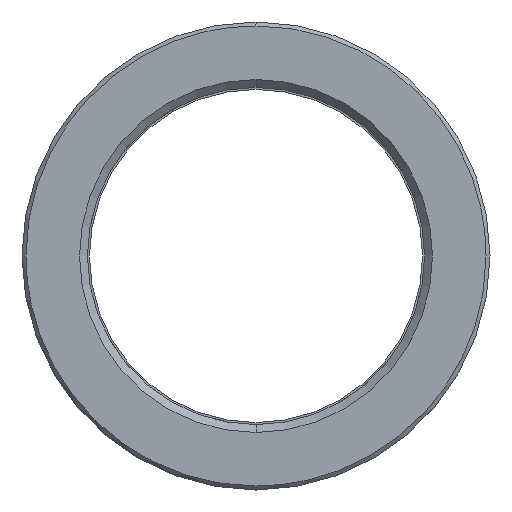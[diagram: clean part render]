
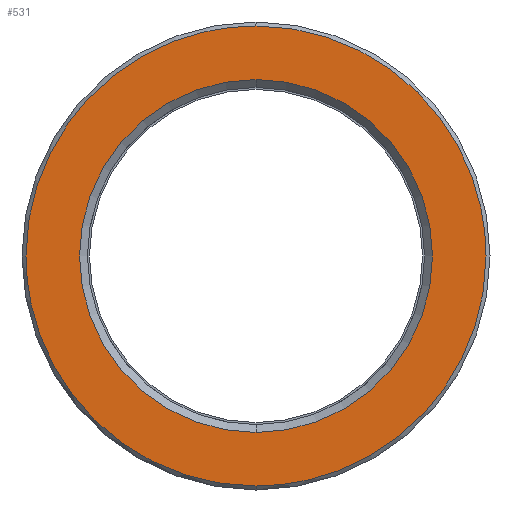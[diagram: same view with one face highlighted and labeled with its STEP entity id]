
A CAD part, left-side view. The second image highlights one B-rep face of the part: STEP entity #531.
In plain terms, the highlighted planar face has unit normal (-1, 0, 0).
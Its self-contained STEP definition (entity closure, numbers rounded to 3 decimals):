
#311=CARTESIAN_POINT('Axis2P3D Location',(0.,0.,0.)) ;
#315=CARTESIAN_POINT('Vertex',(0.,22.25,0.)) ;
#317=CARTESIAN_POINT('Vertex',(0.,0.,22.25)) ;
#320=CARTESIAN_POINT('Axis2P3D Location',(0.,0.,0.)) ;
#324=CARTESIAN_POINT('Vertex',(0.,0.,-22.25)) ;
#351=CARTESIAN_POINT('Axis2P3D Location',(0.,0.,0.)) ;
#355=CARTESIAN_POINT('Vertex',(0.,-22.25,0.)) ;
#358=CARTESIAN_POINT('Axis2P3D Location',(0.,0.,0.)) ;
#438=CARTESIAN_POINT('Axis2P3D Location',(0.,29.,0.)) ;
#444=CARTESIAN_POINT('Control Point',(0.,0.,-29.)) ;
#445=CARTESIAN_POINT('Control Point',(0.,1.442,-29.)) ;
#446=CARTESIAN_POINT('Control Point',(0.,2.884,-28.91)) ;
#447=CARTESIAN_POINT('Control Point',(0.,4.319,-28.731)) ;
#448=CARTESIAN_POINT('Control Point',(0.,8.336,-27.973)) ;
#449=CARTESIAN_POINT('Control Point',(0.,12.177,-26.519)) ;
#450=CARTESIAN_POINT('Control Point',(0.,14.542,-25.299)) ;
#451=CARTESIAN_POINT('Control Point',(0.,18.954,-22.344)) ;
#452=CARTESIAN_POINT('Control Point',(0.,22.589,-18.473)) ;
#453=CARTESIAN_POINT('Control Point',(0.,24.178,-16.338)) ;
#454=CARTESIAN_POINT('Control Point',(0.,26.719,-11.959)) ;
#455=CARTESIAN_POINT('Control Point',(0.,28.26,-7.143)) ;
#456=CARTESIAN_POINT('Control Point',(0.,28.753,-4.784)) ;
#457=CARTESIAN_POINT('Control Point',(0.,29.,-2.392)) ;
#458=CARTESIAN_POINT('Control Point',(0.,29.,0.)) ;
#459=CARTESIAN_POINT('Vertex',(0.,0.,-29.)) ;
#461=CARTESIAN_POINT('Vertex',(0.,29.,0.)) ;
#465=CARTESIAN_POINT('Control Point',(0.,-29.,0.)) ;
#466=CARTESIAN_POINT('Control Point',(0.,-29.,-2.638)) ;
#467=CARTESIAN_POINT('Control Point',(0.,-28.7,-5.276)) ;
#468=CARTESIAN_POINT('Control Point',(0.,-28.1,-7.869)) ;
#469=CARTESIAN_POINT('Control Point',(0.,-26.321,-12.873)) ;
#470=CARTESIAN_POINT('Control Point',(0.,-23.464,-17.349)) ;
#471=CARTESIAN_POINT('Control Point',(0.,-21.786,-19.414)) ;
#472=CARTESIAN_POINT('Control Point',(0.,-17.989,-23.127)) ;
#473=CARTESIAN_POINT('Control Point',(0.,-13.456,-25.893)) ;
#474=CARTESIAN_POINT('Control Point',(0.,-11.041,-27.012)) ;
#475=CARTESIAN_POINT('Control Point',(0.,-7.377,-28.223)) ;
#476=CARTESIAN_POINT('Control Point',(0.,-3.584,-28.815)) ;
#477=CARTESIAN_POINT('Control Point',(0.,-2.392,-28.938)) ;
#478=CARTESIAN_POINT('Control Point',(0.,-1.196,-29.)) ;
#479=CARTESIAN_POINT('Control Point',(0.,0.,-29.)) ;
#480=CARTESIAN_POINT('Vertex',(0.,-29.,0.)) ;
#484=CARTESIAN_POINT('Control Point',(0.,0.,29.)) ;
#485=CARTESIAN_POINT('Control Point',(0.,-1.442,29.)) ;
#486=CARTESIAN_POINT('Control Point',(0.,-2.884,28.91)) ;
#487=CARTESIAN_POINT('Control Point',(0.,-4.319,28.731)) ;
#488=CARTESIAN_POINT('Control Point',(0.,-8.336,27.973)) ;
#489=CARTESIAN_POINT('Control Point',(0.,-12.177,26.519)) ;
#490=CARTESIAN_POINT('Control Point',(0.,-14.542,25.299)) ;
#491=CARTESIAN_POINT('Control Point',(0.,-18.954,22.344)) ;
#492=CARTESIAN_POINT('Control Point',(0.,-22.589,18.473)) ;
#493=CARTESIAN_POINT('Control Point',(0.,-24.178,16.338)) ;
#494=CARTESIAN_POINT('Control Point',(0.,-26.719,11.959)) ;
#495=CARTESIAN_POINT('Control Point',(0.,-28.26,7.143)) ;
#496=CARTESIAN_POINT('Control Point',(0.,-28.753,4.784)) ;
#497=CARTESIAN_POINT('Control Point',(0.,-29.,2.392)) ;
#498=CARTESIAN_POINT('Control Point',(0.,-29.,0.)) ;
#499=CARTESIAN_POINT('Vertex',(0.,0.,29.)) ;
#503=CARTESIAN_POINT('Control Point',(0.,29.,0.)) ;
#504=CARTESIAN_POINT('Control Point',(0.,29.,2.638)) ;
#505=CARTESIAN_POINT('Control Point',(0.,28.7,5.276)) ;
#506=CARTESIAN_POINT('Control Point',(0.,28.1,7.869)) ;
#507=CARTESIAN_POINT('Control Point',(0.,26.321,12.873)) ;
#508=CARTESIAN_POINT('Control Point',(0.,23.464,17.349)) ;
#509=CARTESIAN_POINT('Control Point',(0.,21.786,19.414)) ;
#510=CARTESIAN_POINT('Control Point',(0.,17.989,23.127)) ;
#511=CARTESIAN_POINT('Control Point',(0.,13.456,25.893)) ;
#512=CARTESIAN_POINT('Control Point',(0.,11.041,27.012)) ;
#513=CARTESIAN_POINT('Control Point',(0.,7.377,28.223)) ;
#514=CARTESIAN_POINT('Control Point',(0.,3.584,28.815)) ;
#515=CARTESIAN_POINT('Control Point',(0.,2.392,28.938)) ;
#516=CARTESIAN_POINT('Control Point',(0.,1.196,29.)) ;
#517=CARTESIAN_POINT('Control Point',(0.,0.,29.)) ;
#312=DIRECTION('Axis2P3D Direction',(-1.,0.,0.)) ;
#321=DIRECTION('Axis2P3D Direction',(-1.,0.,0.)) ;
#352=DIRECTION('Axis2P3D Direction',(-1.,0.,0.)) ;
#359=DIRECTION('Axis2P3D Direction',(-1.,0.,0.)) ;
#439=DIRECTION('Axis2P3D Direction',(-1.,0.,0.)) ;
#440=DIRECTION('Axis2P3D XDirection',(0.,0.,1.)) ;
#313=AXIS2_PLACEMENT_3D('Circle Axis2P3D',#311,#312,$) ;
#322=AXIS2_PLACEMENT_3D('Circle Axis2P3D',#320,#321,$) ;
#353=AXIS2_PLACEMENT_3D('Circle Axis2P3D',#351,#352,$) ;
#360=AXIS2_PLACEMENT_3D('Circle Axis2P3D',#358,#359,$) ;
#441=AXIS2_PLACEMENT_3D('Plane Axis2P3D',#438,#439,#440) ;
#520=ORIENTED_EDGE('',*,*,#463,.F.) ;
#521=ORIENTED_EDGE('',*,*,#482,.F.) ;
#522=ORIENTED_EDGE('',*,*,#501,.F.) ;
#523=ORIENTED_EDGE('',*,*,#518,.F.) ;
#526=ORIENTED_EDGE('',*,*,#319,.T.) ;
#527=ORIENTED_EDGE('',*,*,#362,.T.) ;
#528=ORIENTED_EDGE('',*,*,#357,.T.) ;
#529=ORIENTED_EDGE('',*,*,#326,.T.) ;
#530=FACE_BOUND('',#525,.T.) ;
#531=ADVANCED_FACE('553-42X156',(#524,#530),#442,.T.) ;
#443=B_SPLINE_CURVE_WITH_KNOTS('',5,(#444,#445,#446,#447,#448,#449,#450,#451,#452,#453,#454,#455,#456,#457,#458),.UNSPECIFIED.,.F.,.U.,(6,3,3,3,6),(64.421,74.618,93.273,111.928,128.843),.UNSPECIFIED.) ;
#464=B_SPLINE_CURVE_WITH_KNOTS('',5,(#465,#466,#467,#468,#469,#470,#471,#472,#473,#474,#475,#476,#477,#478,#479),.UNSPECIFIED.,.F.,.U.,(6,3,3,3,6),(0.,18.655,37.309,55.964,64.421),.UNSPECIFIED.) ;
#483=B_SPLINE_CURVE_WITH_KNOTS('',5,(#484,#485,#486,#487,#488,#489,#490,#491,#492,#493,#494,#495,#496,#497,#498),.UNSPECIFIED.,.F.,.U.,(6,3,3,3,6),(64.421,74.618,93.273,111.928,128.843),.UNSPECIFIED.) ;
#502=B_SPLINE_CURVE_WITH_KNOTS('',5,(#503,#504,#505,#506,#507,#508,#509,#510,#511,#512,#513,#514,#515,#516,#517),.UNSPECIFIED.,.F.,.U.,(6,3,3,3,6),(0.,18.655,37.309,55.964,64.421),.UNSPECIFIED.) ;
#314=CIRCLE('generated circle',#313,22.25) ;
#323=CIRCLE('generated circle',#322,22.25) ;
#354=CIRCLE('generated circle',#353,22.25) ;
#361=CIRCLE('generated circle',#360,22.25) ;
#319=EDGE_CURVE('',#316,#318,#314,.F.) ;
#326=EDGE_CURVE('',#325,#316,#323,.F.) ;
#357=EDGE_CURVE('',#356,#325,#354,.F.) ;
#362=EDGE_CURVE('',#318,#356,#361,.F.) ;
#463=EDGE_CURVE('',#460,#462,#443,.T.) ;
#482=EDGE_CURVE('',#481,#460,#464,.T.) ;
#501=EDGE_CURVE('',#500,#481,#483,.T.) ;
#518=EDGE_CURVE('',#462,#500,#502,.T.) ;
#519=EDGE_LOOP('',(#520,#521,#522,#523)) ;
#525=EDGE_LOOP('',(#526,#527,#528,#529)) ;
#524=FACE_OUTER_BOUND('',#519,.T.) ;
#442=PLANE('Plane',#441) ;
#316=VERTEX_POINT('',#315) ;
#318=VERTEX_POINT('',#317) ;
#325=VERTEX_POINT('',#324) ;
#356=VERTEX_POINT('',#355) ;
#460=VERTEX_POINT('',#459) ;
#462=VERTEX_POINT('',#461) ;
#481=VERTEX_POINT('',#480) ;
#500=VERTEX_POINT('',#499) ;
